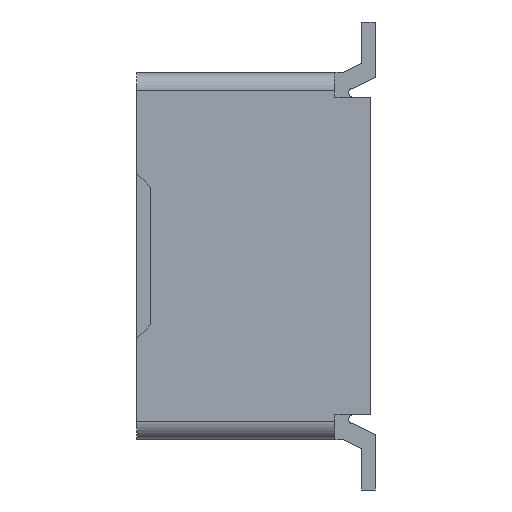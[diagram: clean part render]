
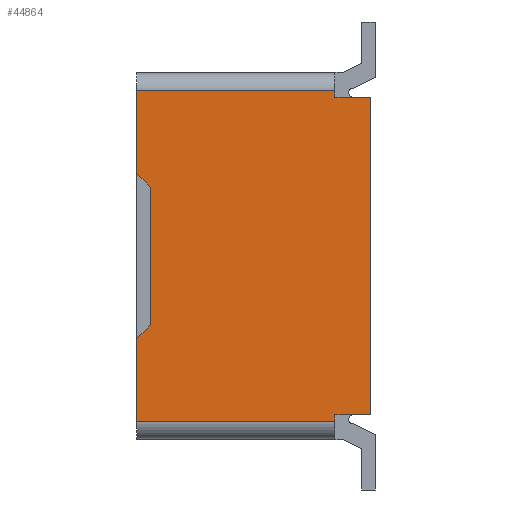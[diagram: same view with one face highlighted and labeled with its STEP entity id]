
A CAD part, left-side view. The second image highlights one B-rep face of the part: STEP entity #44864.
In plain terms, the highlighted planar face has unit normal (-1, 0, 0).
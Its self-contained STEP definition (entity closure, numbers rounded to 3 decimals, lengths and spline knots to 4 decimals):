
#1=DIRECTION('',(0.,0.,-1.));
#2=VECTOR('',#1,0.07);
#3=CARTESIAN_POINT('',(-11.35,0.39,1.8));
#4=LINE('',#3,#2);
#5=DIRECTION('',(0.,-1.,0.));
#6=VECTOR('',#5,0.39);
#7=CARTESIAN_POINT('',(-11.35,0.39,1.73));
#8=LINE('',#7,#6);
#9=DIRECTION('',(0.,0.,-1.));
#10=VECTOR('',#9,3.46);
#11=CARTESIAN_POINT('',(-11.35,0.,1.73));
#12=LINE('',#11,#10);
#13=DIRECTION('',(0.,1.,0.));
#14=VECTOR('',#13,0.39);
#15=CARTESIAN_POINT('',(-11.35,0.,-1.73));
#16=LINE('',#15,#14);
#17=DIRECTION('',(0.,0.,-1.));
#18=VECTOR('',#17,0.07);
#19=CARTESIAN_POINT('',(-11.35,0.39,-1.73));
#20=LINE('',#19,#18);
#21=DIRECTION('',(0.,0.,1.));
#22=VECTOR('',#21,0.9);
#23=CARTESIAN_POINT('',(-11.35,2.55,-1.8));
#24=LINE('',#23,#22);
#25=DIRECTION('',(0.,-0.707,0.707));
#26=VECTOR('',#25,0.2121);
#27=CARTESIAN_POINT('',(-11.35,2.55,-0.9));
#28=LINE('',#27,#26);
#29=DIRECTION('',(0.,0.,1.));
#30=VECTOR('',#29,1.5);
#31=CARTESIAN_POINT('',(-11.35,2.4,-0.75));
#32=LINE('',#31,#30);
#33=DIRECTION('',(0.,0.707,0.707));
#34=VECTOR('',#33,0.2121);
#35=CARTESIAN_POINT('',(-11.35,2.4,0.75));
#36=LINE('',#35,#34);
#37=DIRECTION('',(0.,0.,1.));
#38=VECTOR('',#37,0.9);
#39=CARTESIAN_POINT('',(-11.35,2.55,0.9));
#40=LINE('',#39,#38);
#41=DIRECTION('',(0.,1.,0.));
#42=VECTOR('',#41,2.16);
#43=CARTESIAN_POINT('',(-11.35,0.39,1.8));
#44=LINE('',#43,#42);
#151=DIRECTION('',(0.,-1.,0.));
#152=VECTOR('',#151,2.16);
#153=CARTESIAN_POINT('',(-11.35,2.55,-1.8));
#154=LINE('',#153,#152);
#33957=CARTESIAN_POINT('',(-11.35,0.,1.73));
#33958=CARTESIAN_POINT('',(-11.35,0.,-1.73));
#33959=VERTEX_POINT('',#33957);
#33960=VERTEX_POINT('',#33958);
#33961=CARTESIAN_POINT('',(-11.35,2.4,-0.75));
#33962=CARTESIAN_POINT('',(-11.35,2.4,0.75));
#33963=VERTEX_POINT('',#33961);
#33964=VERTEX_POINT('',#33962);
#34005=CARTESIAN_POINT('',(-11.35,0.39,1.73));
#34006=VERTEX_POINT('',#34005);
#34007=CARTESIAN_POINT('',(-11.35,0.39,-1.73));
#34008=VERTEX_POINT('',#34007);
#34149=CARTESIAN_POINT('',(-11.35,0.39,1.8));
#34150=CARTESIAN_POINT('',(-11.35,2.55,1.8));
#34151=VERTEX_POINT('',#34149);
#34152=VERTEX_POINT('',#34150);
#34157=CARTESIAN_POINT('',(-11.35,2.55,-1.8));
#34158=CARTESIAN_POINT('',(-11.35,0.39,-1.8));
#34159=VERTEX_POINT('',#34157);
#34160=VERTEX_POINT('',#34158);
#34181=CARTESIAN_POINT('',(-11.35,2.55,-0.9));
#34182=VERTEX_POINT('',#34181);
#34183=CARTESIAN_POINT('',(-11.35,2.55,0.9));
#34184=VERTEX_POINT('',#34183);
#44833=CARTESIAN_POINT('',(-11.35,0.,0.));
#44834=DIRECTION('',(1.,0.,0.));
#44835=DIRECTION('',(0.,0.,-1.));
#44836=AXIS2_PLACEMENT_3D('',#44833,#44834,#44835);
#44837=PLANE('',#44836);
#44839=ORIENTED_EDGE('',*,*,#44838,.F.);
#44841=ORIENTED_EDGE('',*,*,#44840,.T.);
#44843=ORIENTED_EDGE('',*,*,#44842,.T.);
#44845=ORIENTED_EDGE('',*,*,#44844,.T.);
#44847=ORIENTED_EDGE('',*,*,#44846,.T.);
#44849=ORIENTED_EDGE('',*,*,#44848,.T.);
#44851=ORIENTED_EDGE('',*,*,#44850,.F.);
#44853=ORIENTED_EDGE('',*,*,#44852,.T.);
#44855=ORIENTED_EDGE('',*,*,#44854,.T.);
#44857=ORIENTED_EDGE('',*,*,#44856,.T.);
#44859=ORIENTED_EDGE('',*,*,#44858,.T.);
#44861=ORIENTED_EDGE('',*,*,#44860,.T.);
#44862=EDGE_LOOP('',(#44839,#44841,#44843,#44845,#44847,#44849,#44851,#44853,
#44855,#44857,#44859,#44861));
#44863=FACE_OUTER_BOUND('',#44862,.F.);
#44864=ADVANCED_FACE('',(#44863),#44837,.F.);
#44838=EDGE_CURVE('',#34151,#34152,#44,.T.);
#44840=EDGE_CURVE('',#34151,#34006,#4,.T.);
#44842=EDGE_CURVE('',#34006,#33959,#8,.T.);
#44844=EDGE_CURVE('',#33959,#33960,#12,.T.);
#44846=EDGE_CURVE('',#33960,#34008,#16,.T.);
#44848=EDGE_CURVE('',#34008,#34160,#20,.T.);
#44850=EDGE_CURVE('',#34159,#34160,#154,.T.);
#44852=EDGE_CURVE('',#34159,#34182,#24,.T.);
#44854=EDGE_CURVE('',#34182,#33963,#28,.T.);
#44856=EDGE_CURVE('',#33963,#33964,#32,.T.);
#44858=EDGE_CURVE('',#33964,#34184,#36,.T.);
#44860=EDGE_CURVE('',#34184,#34152,#40,.T.);
